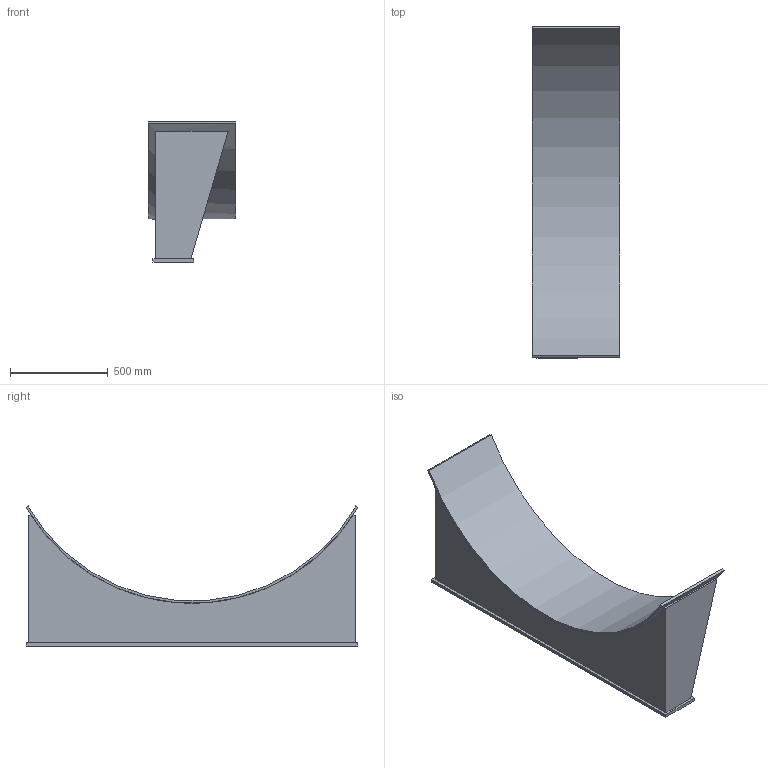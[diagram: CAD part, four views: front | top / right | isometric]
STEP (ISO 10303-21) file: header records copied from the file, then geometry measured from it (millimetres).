
FILE_DESCRIPTION(/* description */ (''),/* implementation_level */ '2;1');
FILE_NAME(/* name */ 'C:\Users\D\Documents\Inventor\HP\JPI\横置きタンクサドル\重荷重用\hc-saddle-hl_1900.stp',/* time_stamp */ '2026-01-27T18:46:00+09:00',/* author */ ('D'),/* organization */ (''),/* preprocessor_version */ 'ST-DEVELOPER v18',/* originating_system */ 'Autodesk Inventor 2020',/* authorisation */ '');
FILE_SCHEMA (('AUTOMOTIVE_DESIGN { 1 0 10303 214 3 1 1 }'));
Length unit declared in the file: millimetre
Products named in the file (1): 200A
Bounding box: 450 x 1701.94 x 717.9 mm (x, y, z)
Volume: 28672516.9 mm3; surface area: 4644181.2 mm2
Topology: 1 solids, 1 shells, 34 faces, 86 edges, 56 vertices
Faces by surface type: plane 30, cylinder 4
Full cylindrical faces by diameter (mm): 35 x2
Entity records: 1089 total; most frequent: CARTESIAN_POINT 181, ORIENTED_EDGE 180, DIRECTION 174, EDGE_CURVE 90, LINE 76, VECTOR 76, VERTEX_POINT 56, AXIS2_PLACEMENT_3D 49
